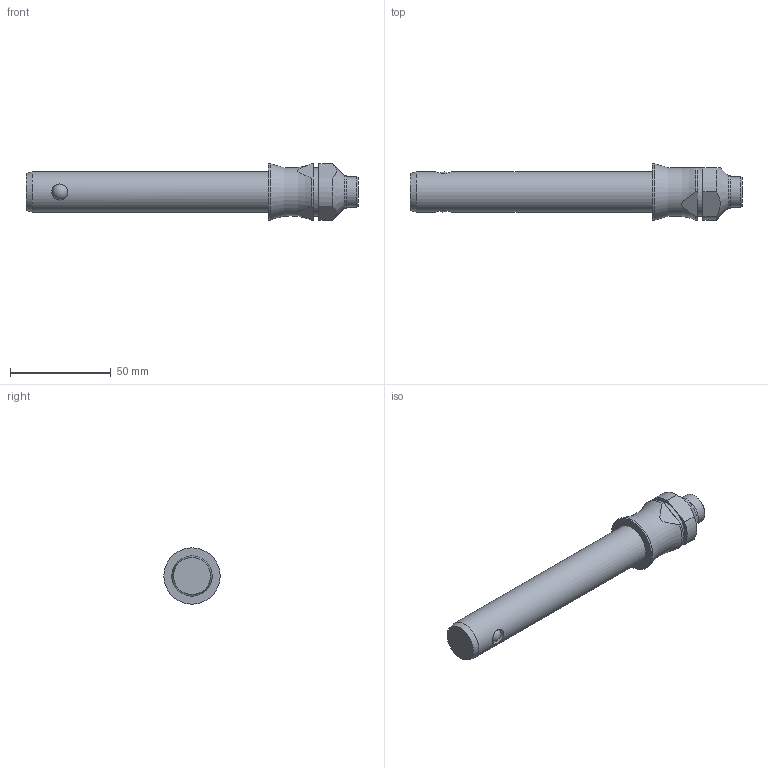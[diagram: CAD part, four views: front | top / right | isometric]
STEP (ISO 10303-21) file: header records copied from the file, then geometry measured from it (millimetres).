
FILE_DESCRIPTION( ( 'STEP AP203' ), '1' );
FILE_NAME( 'C:/Temp/Ganter_Step_05_03_2020/data/3_1/gn113_3/Stainless Steel-Ball lock pin GN 113.3-20-100 (activated).stp', '2020-03-12T08:19:05', ( 'License CC BY-ND 4.0' ), ( 'CADENAS' ), ' ', 'PARTsolutions', ' ' );
FILE_SCHEMA( ( 'CONFIG_CONTROL_DESIGN' ) );
Length unit declared in the file: millimetre
Products named in the file (1): _Stainless Steel-Ball lock pin GN 113.3-20-100 (activated)
Bounding box: 165.05 x 28 x 28 mm (x, y, z)
Volume: 57421.7 mm3; surface area: 12301.4 mm2
Topology: 1 solids, 1 shells, 31 faces, 74 edges, 46 vertices
Faces by surface type: cylinder 13, plane 11, cone 4, sphere 2, torus 1
Full cylindrical faces by diameter (mm): 8 x2, 15 x1, 16 x1, 20 x1, 24 x1, 28 x1
Entity records: 1054 total; most frequent: CARTESIAN_POINT 390, DIRECTION 134, ORIENTED_EDGE 104, AXIS2_PLACEMENT_3D 58, EDGE_CURVE 52, EDGE_LOOP 48, VERTEX_POINT 40, FACE_OUTER_BOUND 39
